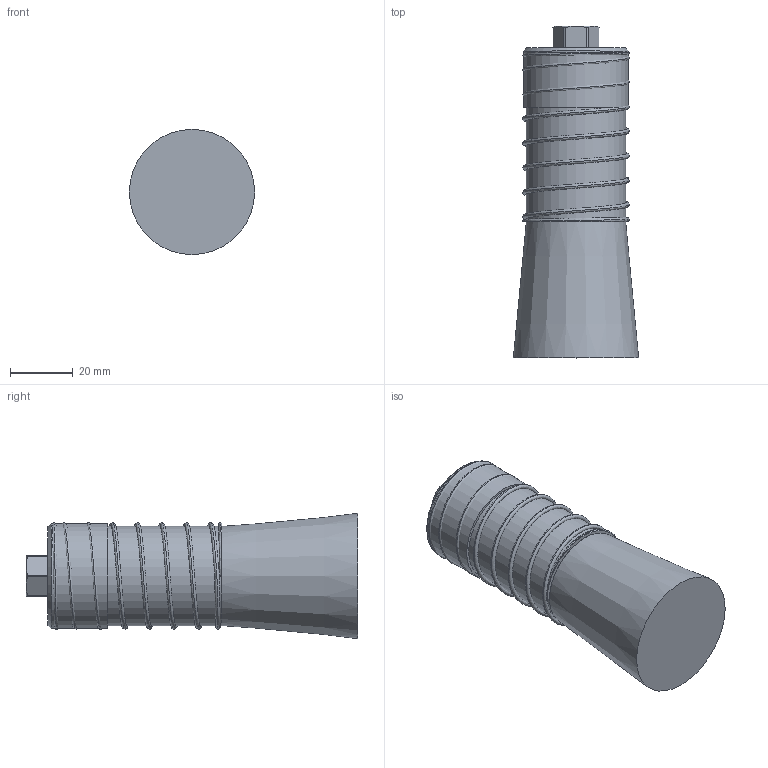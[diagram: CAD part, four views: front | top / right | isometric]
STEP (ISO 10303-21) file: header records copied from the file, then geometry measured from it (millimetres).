
FILE_DESCRIPTION (( 'STEP AP214' ), '1' );
FILE_NAME ('012_0130_0180_02_Schmierpinsel.STEP', '2026-01-21T09:38:18', ( '' ), ( '' ), 'SwSTEP 2.0', 'SolidWorks 2022', '' );
FILE_SCHEMA (( 'AUTOMOTIVE_DESIGN' ));
Length unit declared in the file: millimetre
Products named in the file (3): 012_0130_0180_02_Schmierpinsel; VD_206A_20_2; 012_32_0180_02_Schmierpinsel
Assembly tree (2 placements, depth 2):
  012_0130_0180_02_Schmierpinsel
    012_32_0180_02_Schmierpinsel
    VD_206A_20_2
Bounding box: 40 x 106 x 40 mm (x, y, z)
Volume: 91327.5 mm3; surface area: 17354.7 mm2
Topology: 2 solids, 2 shells, 37 faces, 81 edges, 51 vertices
Faces by surface type: plane 16, cylinder 10, bspline 6, cone 5
Full cylindrical faces by diameter (mm): 1.5 x1, 31.7 x1, 33.5 x1
Entity records: 13686 total; most frequent: CARTESIAN_POINT 12633, DIRECTION 145, ORIENTED_EDGE 142, EDGE_CURVE 71, AXIS2_PLACEMENT_3D 61, VERTEX_POINT 48, EDGE_LOOP 47, FACE_OUTER_BOUND 40
